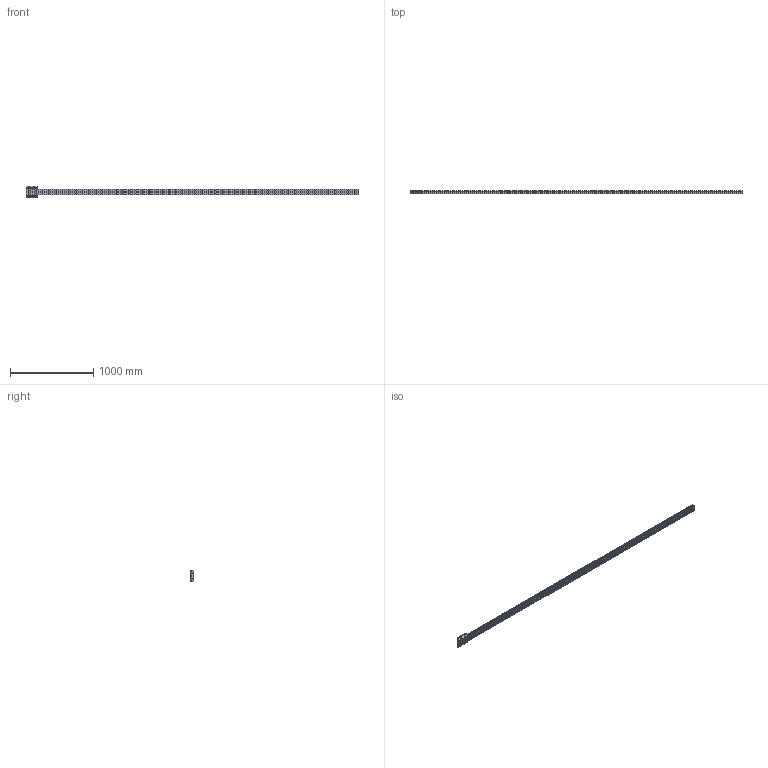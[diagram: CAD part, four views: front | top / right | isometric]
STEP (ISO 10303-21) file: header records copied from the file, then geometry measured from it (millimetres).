
FILE_DESCRIPTION( ( 'STEP AP203' ), '1' );
FILE_NAME( 'p:/temp/worker_11/temp/exporttempdir_3648_679_P1kAl/format_0/FDI35 84368NV_4000-0-0.stp', '2021-02-04T02:10:22', ( 'License CC BY-ND 4.0' ), ( 'CADENAS' ), ' ', 'PARTsolutions', ' ' );
FILE_SCHEMA( ( 'CONFIG_CONTROL_DESIGN' ) );
Length unit declared in the file: millimetre
Products named in the file (5): FDI35 84368NV_4000-0-0; _FDI_35R 4000-0-0; _FDI_35R Slider_1; _FDI_35R 4000-0-0_2; _FDI_35R Slider_2
Assembly tree (4 placements, depth 2):
  FDI35 84368NV_4000-0-0
    _FDI_35R 4000-0-0
    _FDI_35R Slider_1
    _FDI_35R 4000-0-0_2
    _FDI_35R Slider_2
Bounding box: 4000 x 44.5 x 137.8 mm (x, y, z)
Volume: 9132741.4 mm3; surface area: 1409480.2 mm2
Topology: 4 solids, 4 shells, 527 faces, 1360 edges, 935 vertices
Faces by surface type: plane 262, cylinder 241, cone 24
Full cylindrical faces by diameter (mm): 4.917 x8, 8.376 x4, 9 x100, 14 x1, 15 x100
Entity records: 14705 total; most frequent: DIRECTION 2555, CARTESIAN_POINT 2447, ORIENTED_EDGE 2004, EDGE_LOOP 1064, AXIS2_PLACEMENT_3D 1044, EDGE_CURVE 1002, VERTEX_POINT 820, FACE_OUTER_BOUND 740
